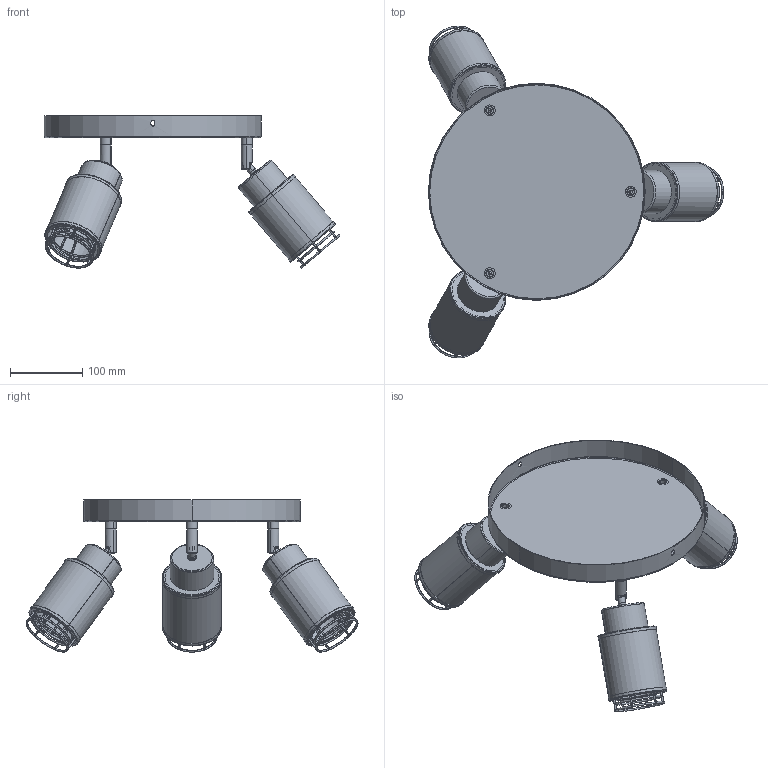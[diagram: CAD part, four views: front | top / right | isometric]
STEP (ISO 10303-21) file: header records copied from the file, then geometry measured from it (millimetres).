
FILE_DESCRIPTION(/* description */ (''),/* implementation_level */ '2;1');
FILE_NAME(/* name */ 'VT-89013_stp.stp',/* time_stamp */ '2026-06-15T15:15:16+08:00',/* author */ (''),/* organization */ (''),/* preprocessor_version */ 'ST-DEVELOPER v16',/* originating_system */ 'SIEMENS PLM Software NX 10.0',/* authorisation */ '');
FILE_SCHEMA (('AP203_CONFIGURATION_CONTROLLED_3D_DESIGN_OF_MECHANICAL_PARTS_AND_ASSEMBLIES_MIM_LF { 1 0 10303 403 2 1 2}'));
Length unit declared in the file: millimetre
Products named in the file (1): 174A0299Bnw58
Bounding box: 408.48 x 459.3 x 210.48 mm (x, y, z)
Volume: 355558.3 mm3; surface area: 535409.7 mm2
Topology: 64 solids, 64 shells, 569 faces, 1171 edges, 685 vertices
Faces by surface type: cylinder 169, plane 159, bspline 150, torus 40, cone 30, sphere 21
Entity records: 24076 total; most frequent: CARTESIAN_POINT 12554, DIRECTION 2430, ORIENTED_EDGE 2306, EDGE_CURVE 1153, AXIS2_PLACEMENT_3D 1078, VERTEX_POINT 685, CIRCLE 658, EDGE_LOOP 618
